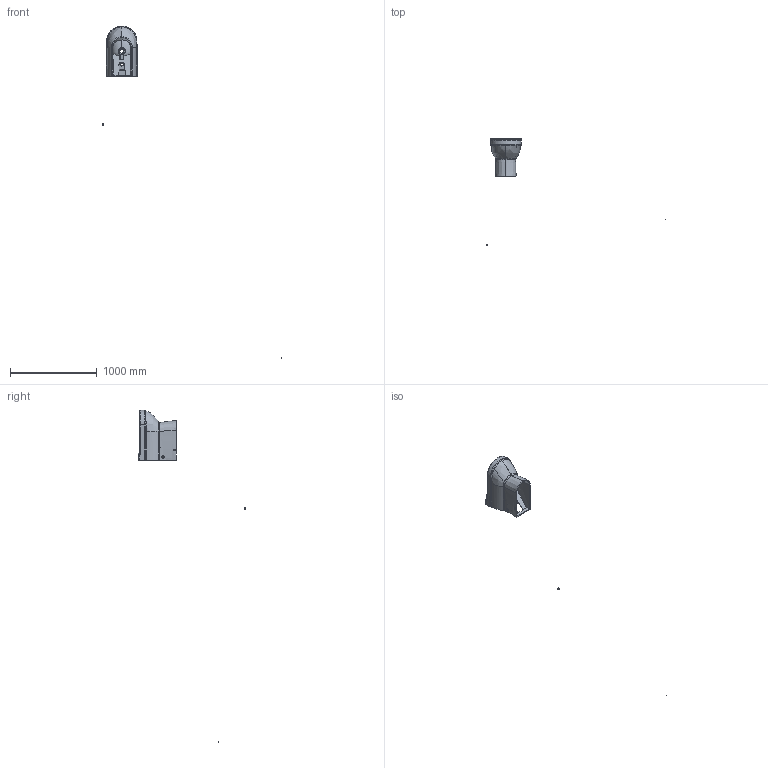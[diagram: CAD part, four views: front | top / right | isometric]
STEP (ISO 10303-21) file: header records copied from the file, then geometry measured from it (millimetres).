
FILE_DESCRIPTION (( 'STEP AP203' ), '1' );
FILE_NAME ('VT500.STEP', '2022-04-18T11:22:17', ( '' ), ( '' ), 'SwSTEP 2.0', 'SolidWorks 2021', '' );
FILE_SCHEMA (( 'CONFIG_CONTROL_DESIGN' ));
Products named in the file (1): VT500
Bounding box: 2068.33 x 1244.9 x 3832.24 mm (x, y, z)
Volume: 15874362.2 mm3; surface area: 1604057.4 mm2
Topology: 11 solids, 11 shells, 593 faces, 1533 edges, 958 vertices
Faces by surface type: cylinder 279, bspline 149, plane 102, torus 37, sphere 22, cone 4
Entity records: 110403 total; most frequent: CARTESIAN_POINT 97732, ORIENTED_EDGE 3022, DIRECTION 2008, EDGE_CURVE 1511, VERTEX_POINT 958, AXIS2_PLACEMENT_3D 798, B_SPLINE_CURVE_WITH_KNOTS 733, EDGE_LOOP 623
